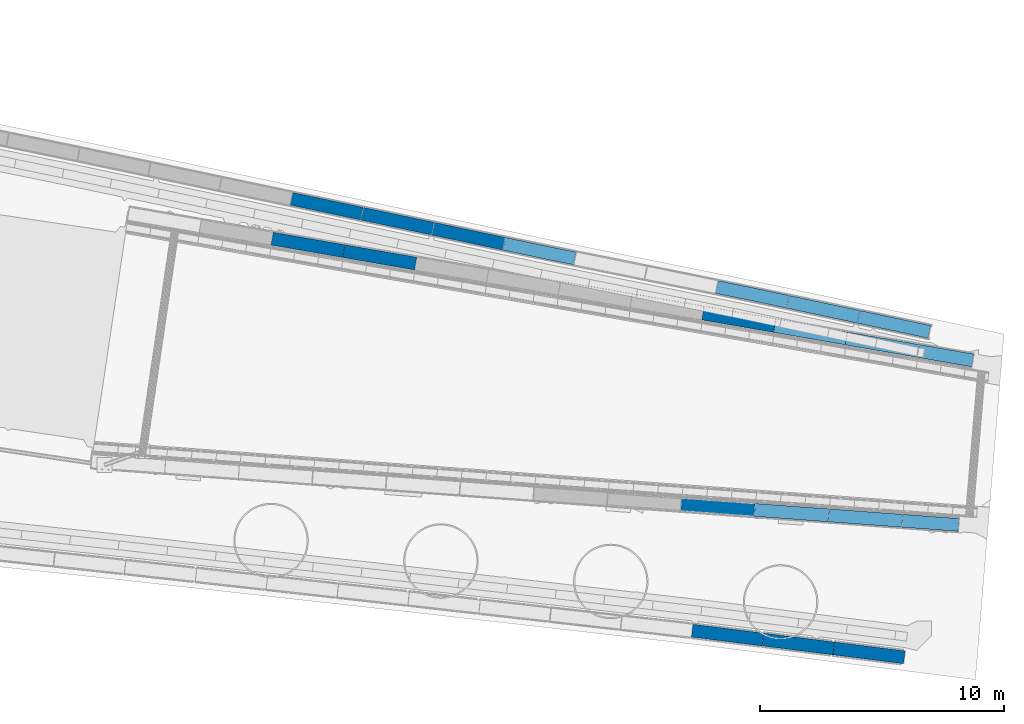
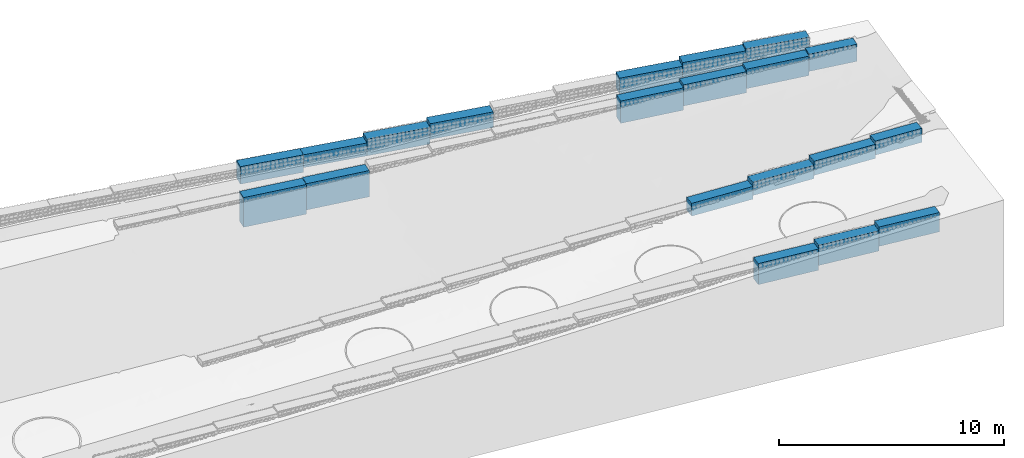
# Not in any storey, part 6 of 46: 20 walls.
"""IFC4 model written with IfcOpenShell, lengths in metres."""

from ifc_helpers import new_model, si_unit, direction, frame, origin_with_axes, place, context, subcontext, project, spatial, polyline, outline, extrude, material, element, save


model = new_model("IFC4")

# Units and contexts
model_context = context("Model", 3, precision=1e-05, world=origin_with_axes(), true_north=direction((0.0, 1.0)))
body_context = subcontext(model_context, "Body", "Model", "MODEL_VIEW")
ifc_project = project(units=[si_unit("VOLUMEUNIT", "CUBIC_METRE"), si_unit("LENGTHUNIT", "METRE"), si_unit("AREAUNIT", "SQUARE_METRE")], contexts=[model_context])

# Site
site_placement = place(None, origin_with_axes())
site = spatial("IfcSite", under=ifc_project, at=site_placement, Name="Lares · Rua das Mercês · artigo 4771")

# Walls
ifc_material = material(Name="Gabião · enchimento", Category="stone")
wall_1_placement = place(site_placement, frame((0.0, 0.0, 15.004702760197), z_axis=(0.0, 0.0, 1.0), x_axis=(1.0, -1.03767253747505e-17, 0.0)))
element("IfcWall", 1, at=wall_1_placement, inside=site, material=ifc_material, Name="Acesso · gabião -1 24.0 · núcleo de pedra", ObjectType="Acesso · gabião -1 24.0 · núcleo de pedra", PredefinedType="USERDEFINED", context=body_context, shape_type="SweptSolid", body=[
    extrude(outline(polyline([(73.6851954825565, 0.657922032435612), (73.6463044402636, 0.129350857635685), (70.628225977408, 0.351414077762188), (70.6671170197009, 0.879985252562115), (73.6851954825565, 0.657922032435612)])), origin_with_axes(), (0.0, 0.0, 1.0), 0.693374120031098),
])
wall_2_placement = place(site_placement, frame((0.0, 0.0, 15.2015590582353), z_axis=(0.0, 0.0, 1.0), x_axis=(1.0, -1.03767253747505e-17, 0.0)))
element("IfcWall", 2, at=wall_2_placement, inside=site, material=ifc_material, Name="Acesso · gabião -1 27.0 · núcleo de pedra", ObjectType="Acesso · gabião -1 27.0 · núcleo de pedra", PredefinedType="USERDEFINED", context=body_context, shape_type="SweptSolid", body=[
    extrude(outline(polyline([(76.7038165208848, 0.435836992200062), (76.6649286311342, -0.0927344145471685), (73.6463060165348, 0.129350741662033), (73.6851939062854, 0.657922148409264), (76.7038165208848, 0.435836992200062)])), origin_with_axes(), (0.0, 0.0, 1.0), 0.719891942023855),
])
wall_3_placement = place(site_placement, frame((0.0, 0.0, 15.3761019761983), z_axis=(0.0, 0.0, 1.0), x_axis=(1.0, -1.03767253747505e-17, 0.0)))
element("IfcWall", 3, at=wall_3_placement, inside=site, material=ifc_material, Name="Acesso · gabião -1 30.0 · núcleo de pedra", ObjectType="Acesso · gabião -1 30.0 · núcleo de pedra", PredefinedType="USERDEFINED", context=body_context, shape_type="SweptSolid", body=[
    extrude(outline(polyline([(79.7230708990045, 0.213733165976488), (79.684187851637, -0.314838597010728), (76.6649310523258, -0.0927345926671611), (76.7038140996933, 0.435837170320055), (79.7230708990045, 0.213733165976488)])), origin_with_axes(), (0.0, 0.0, 1.0), 0.768723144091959),
])
wall_4_placement = place(site_placement, frame((0.0, 0.0, 15.5502454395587), z_axis=(0.0, 0.0, 1.0), x_axis=(1.0, -1.03767253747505e-17, 0.0)))
element("IfcWall", 4, at=wall_4_placement, inside=site, material=ifc_material, Name="Acesso · gabião -1 33.0 · núcleo de pedra", ObjectType="Acesso · gabião -1 33.0 · núcleo de pedra", PredefinedType="USERDEFINED", context=body_context, shape_type="SweptSolid", body=[
    extrude(outline(polyline([(82.025962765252, 0.04435366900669), (81.9870858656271, -0.484218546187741), (79.6841909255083, -0.314838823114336), (79.7230678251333, 0.213733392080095), (82.025962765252, 0.04435366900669)])), origin_with_axes(), (0.0, 0.0, 1.0), 0.764918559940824),
])
wall_5_placement = place(site_placement, frame((0.0, 0.0, 13.6644580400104), z_axis=(0.0, 0.0, 1.0), x_axis=(1.0, -1.03767253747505e-17, 0.0)))
element("IfcWall", 5, at=wall_5_placement, inside=site, material=ifc_material, Name="Acesso · gabião 1 6.0 · núcleo de pedra", ObjectType="Acesso · gabião 1 6.0 · núcleo de pedra", PredefinedType="USERDEFINED", context=body_context, shape_type="SweptSolid", body=[
    extrude(outline(polyline([(56.892786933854, 11.2479066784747), (56.8020581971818, 10.7257301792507), (53.8629507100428, 11.2364033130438), (53.953679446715, 11.7585798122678), (56.892786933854, 11.2479066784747)])), origin_with_axes(), (0.0, 0.0, 1.0), 1.61394453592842),
])
wall_6_placement = place(site_placement, frame((0.0, 0.0, 13.8878321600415), z_axis=(0.0, 0.0, 1.0), x_axis=(1.0, -1.03767253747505e-17, 0.0)))
element("IfcWall", 6, at=wall_6_placement, inside=site, material=ifc_material, Name="Acesso · gabião 1 9.0 · núcleo de pedra", ObjectType="Acesso · gabião 1 9.0 · núcleo de pedra", PredefinedType="USERDEFINED", context=body_context, shape_type="SweptSolid", body=[
    extrude(outline(polyline([(59.8316485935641, 10.7372547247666), (59.7409161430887, 10.2150788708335), (56.8020563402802, 10.7257305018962), (56.8927887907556, 11.2479063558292), (59.8316485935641, 10.7372547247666)])), origin_with_axes(), (0.0, 0.0, 1.0), 1.42680552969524),
])
wall_7_placement = place(site_placement, frame((0.0, 0.0, 15.004702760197), z_axis=(0.0, 0.0, 1.0), x_axis=(1.0, -1.03767253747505e-17, 0.0)))
element("IfcWall", 7, at=wall_7_placement, inside=site, material=ifc_material, Name="Acesso · gabião 1 24.0 · núcleo de pedra", ObjectType="Acesso · gabião 1 24.0 · núcleo de pedra", PredefinedType="USERDEFINED", context=body_context, shape_type="SweptSolid", body=[
    extrude(outline(polyline([(74.5209485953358, 8.18434192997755), (74.4301814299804, 7.66217210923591), (71.4931528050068, 8.17270671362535), (71.5839199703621, 8.69487653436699), (74.5209485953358, 8.18434192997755)])), origin_with_axes(), (0.0, 0.0, 1.0), 1.20876084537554),
])
wall_8_placement = place(site_placement, frame((0.0, 0.0, 15.2280768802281), z_axis=(0.0, 0.0, 1.0), x_axis=(1.0, -1.03767253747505e-17, 0.0)))
element("IfcWall", 8, at=wall_8_placement, inside=site, material=ifc_material, Name="Acesso · gabião 1 27.0 · núcleo de pedra", ObjectType="Acesso · gabião 1 27.0 · núcleo de pedra", PredefinedType="USERDEFINED", context=body_context, shape_type="SweptSolid", body=[
    extrude(outline(polyline([(77.4574393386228, 7.67382817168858), (77.366659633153, 7.1516605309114), (74.4301751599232, 7.66217319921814), (74.520954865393, 8.18434083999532), (77.4574393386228, 7.67382817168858)])), origin_with_axes(), (0.0, 0.0, 1.0), 1.14763134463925),
])
wall_9_placement = place(site_placement, frame((0.0, 0.0, 15.4514510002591), z_axis=(0.0, 0.0, 1.0), x_axis=(1.0, -1.03767253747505e-17, 0.0)))
element("IfcWall", 9, at=wall_9_placement, inside=site, material=ifc_material, Name="Acesso · gabião 1 30.0 · núcleo de pedra", ObjectType="Acesso · gabião 1 30.0 · núcleo de pedra", PredefinedType="USERDEFINED", context=body_context, shape_type="SweptSolid", body=[
    extrude(outline(polyline([(80.3932975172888, 7.16333297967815), (80.3025020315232, 6.64116808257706), (77.3666517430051, 7.15166190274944), (77.4574472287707, 7.67382679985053), (80.3932975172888, 7.16333297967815)])), origin_with_axes(), (0.0, 0.0, 1.0), 1.05565777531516),
])
wall_10_placement = place(site_placement, frame((0.0, 0.0, 15.6748251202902), z_axis=(0.0, 0.0, 1.0), x_axis=(1.0, -1.03767253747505e-17, 0.0)))
element("IfcWall", 10, at=wall_10_placement, inside=site, material=ifc_material, Name="Acesso · gabião 1 33.0 · núcleo de pedra", ObjectType="Acesso · gabião 1 33.0 · núcleo de pedra", PredefinedType="USERDEFINED", context=body_context, shape_type="SweptSolid", body=[
    extrude(outline(polyline([(82.6316099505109, 6.77405251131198), (82.5407971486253, 6.25189062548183), (80.3024933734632, 6.64116958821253), (80.3933061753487, 7.16333147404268), (82.6316099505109, 6.77405251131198)])), origin_with_axes(), (0.0, 0.0, 1.0), 0.931312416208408),
])
wall_11_placement = place(site_placement, frame((0.0, 0.0, 14.75), z_axis=(0.0, 0.0, 1.0), x_axis=(1.0, -1.03767253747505e-17, 0.0)))
element("IfcWall", 11, at=wall_11_placement, inside=site, material=ifc_material, Name="Limite north · gabião 19 · núcleo de pedra", ObjectType="Limite north · gabião 19 · núcleo de pedra", PredefinedType="USERDEFINED", context=body_context, shape_type="SweptSolid", body=[
    extrude(outline(polyline([(56.4691492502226, 13.027263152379), (56.4695476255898, 13.0271792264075), (57.6501177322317, 12.7775205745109), (57.5404621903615, 12.2589883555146), (56.3600912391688, 12.5086048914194), (54.6393722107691, 12.8697295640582), (54.7482310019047, 13.3884296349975), (56.4691492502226, 13.027263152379)])), origin_with_axes(), (0.0, 0.0, 1.0), 0.950000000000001),
])
wall_12_placement = place(site_placement, frame((0.0, 0.0, 15.0), z_axis=(0.0, 0.0, 1.0), x_axis=(1.0, -1.03767253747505e-17, 0.0)))
element("IfcWall", 12, at=wall_12_placement, inside=site, material=ifc_material, Name="Limite north · gabião 20 · núcleo de pedra", ObjectType="Limite north · gabião 20 · núcleo de pedra", PredefinedType="USERDEFINED", context=body_context, shape_type="SweptSolid", body=[
    extrude(outline(polyline([(60.551049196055, 12.1640520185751), (60.4413936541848, 11.6455197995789), (57.5404621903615, 12.2589883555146), (57.6501177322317, 12.7775205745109), (60.551049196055, 12.1640520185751)])), origin_with_axes(), (0.0, 0.0, 1.0), 0.700000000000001),
])
wall_13_placement = place(site_placement, frame((0.0, 0.0, 15.0), z_axis=(0.0, 0.0, 1.0), x_axis=(1.0, -1.03767253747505e-17, 0.0)))
element("IfcWall", 13, at=wall_13_placement, inside=site, material=ifc_material, Name="Limite north · gabião 21 · núcleo de pedra", ObjectType="Limite north · gabião 21 · núcleo de pedra", PredefinedType="USERDEFINED", context=body_context, shape_type="SweptSolid", body=[
    extrude(outline(polyline([(63.4519806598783, 11.5505834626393), (63.3423251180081, 11.0320512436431), (60.4413936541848, 11.6455197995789), (60.551049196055, 12.1640520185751), (63.4519806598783, 11.5505834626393)])), origin_with_axes(), (0.0, 0.0, 1.0), 0.9),
])
wall_14_placement = place(site_placement, frame((0.0, 0.0, 15.25), z_axis=(0.0, 0.0, 1.0), x_axis=(1.0, -1.03767253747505e-17, 0.0)))
element("IfcWall", 14, at=wall_14_placement, inside=site, material=ifc_material, Name="Limite north · gabião 22 · núcleo de pedra", ObjectType="Limite north · gabião 22 · núcleo de pedra", PredefinedType="USERDEFINED", context=body_context, shape_type="SweptSolid", body=[
    extrude(outline(polyline([(65.1604418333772, 11.1892901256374), (66.3527884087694, 10.9488009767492), (66.2480007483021, 10.4292631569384), (65.0544360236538, 10.6699979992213), (65.0520020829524, 10.6705007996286), (63.3423251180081, 11.0320512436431), (63.4519806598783, 11.5505834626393), (65.1604418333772, 11.1892901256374)])), origin_with_axes(), (0.0, 0.0, 1.0), 0.850000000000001),
])
wall_15_placement = place(site_placement, frame((0.0, 0.0, 15.75), z_axis=(0.0, 0.0, 1.0), x_axis=(1.0, -1.03767253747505e-17, 0.0)))
element("IfcWall", 15, at=wall_15_placement, inside=site, material=ifc_material, Name="Limite north · gabião 25 · núcleo de pedra", ObjectType="Limite north · gabião 25 · núcleo de pedra", PredefinedType="USERDEFINED", context=body_context, shape_type="SweptSolid", body=[
    extrude(outline(polyline([(73.4824731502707, 9.5107863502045), (73.4851480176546, 9.51023248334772), (75.0717450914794, 9.17316935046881), (74.9616076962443, 8.65473926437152), (73.3763466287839, 8.99151857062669), (72.0611153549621, 9.25679282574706), (72.1659030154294, 9.77633064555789), (73.4824731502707, 9.5107863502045)])), origin_with_axes(), (0.0, 0.0, 1.0), 0.850000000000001),
])
wall_16_placement = place(site_placement, frame((0.0, 0.0, 15.75), z_axis=(0.0, 0.0, 1.0), x_axis=(1.0, -1.03767253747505e-17, 0.0)))
element("IfcWall", 16, at=wall_16_placement, inside=site, material=ifc_material, Name="Limite north · gabião 26 · núcleo de pedra", ObjectType="Limite north · gabião 26 · núcleo de pedra", PredefinedType="USERDEFINED", context=body_context, shape_type="SweptSolid", body=[
    extrude(outline(polyline([(77.9721051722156, 8.55700506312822), (77.8619677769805, 8.03857497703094), (74.9616076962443, 8.65473926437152), (75.0717450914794, 9.17316935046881), (77.9721051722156, 8.55700506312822)])), origin_with_axes(), (0.0, 0.0, 1.0), 1.05),
])
wall_17_placement = place(site_placement, frame((0.0, 0.0, 16.0), z_axis=(0.0, 0.0, 1.0), x_axis=(1.0, -1.03767253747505e-17, 0.0)))
element("IfcWall", 17, at=wall_17_placement, inside=site, material=ifc_material, Name="Limite north · gabião 27 · núcleo de pedra", ObjectType="Limite north · gabião 27 · núcleo de pedra", PredefinedType="USERDEFINED", context=body_context, shape_type="SweptSolid", body=[
    extrude(outline(polyline([(80.8724652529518, 7.94084077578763), (80.7623278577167, 7.42241068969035), (77.8619677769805, 8.03857497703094), (77.9721051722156, 8.55700506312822), (80.8724652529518, 7.94084077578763)])), origin_with_axes(), (0.0, 0.0, 1.0), 0.900000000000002),
])
wall_18_placement = place(site_placement, frame((0.0, 0.0, 14.25), z_axis=(0.0, 0.0, 1.0), x_axis=(1.0, -1.03767253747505e-17, 0.0)))
element("IfcWall", 18, at=wall_18_placement, inside=site, material=ifc_material, Name="Limite south · gabião 29 · núcleo de pedra", ObjectType="Limite south · gabião 29 · núcleo de pedra", PredefinedType="USERDEFINED", context=body_context, shape_type="SweptSolid", body=[
    extrude(outline(polyline([(71.3785279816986, -4.31408767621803), (71.3816626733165, -4.31446301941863), (74.0316917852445, -4.64779709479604), (73.9655469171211, -5.17365340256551), (71.3170840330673, -4.84051633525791), (71.07184157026, -4.81263214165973), (71.1317170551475, -4.28602514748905), (71.3785279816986, -4.31408767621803)])), origin_with_axes(), (0.0, 0.0, 1.0), 1.15),
])
wall_19_placement = place(site_placement, frame((0.0, 0.0, 14.5), z_axis=(0.0, 0.0, 1.0), x_axis=(1.0, -1.03767253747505e-17, 0.0)))
element("IfcWall", 19, at=wall_19_placement, inside=site, material=ifc_material, Name="Limite south · gabião 30 · núcleo de pedra", ObjectType="Limite south · gabião 30 · núcleo de pedra", PredefinedType="USERDEFINED", context=body_context, shape_type="SweptSolid", body=[
    extrude(outline(polyline([(76.9281799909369, -5.01213204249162), (76.8620351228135, -5.53798835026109), (73.9655469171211, -5.17365340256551), (74.0316917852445, -4.64779709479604), (76.9281799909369, -5.01213204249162)])), origin_with_axes(), (0.0, 0.0, 1.0), 1.1),
])
wall_20_placement = place(site_placement, frame((0.0, 0.0, 14.75), z_axis=(0.0, 0.0, 1.0), x_axis=(1.0, -1.03767253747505e-17, 0.0)))
element("IfcWall", 20, at=wall_20_placement, inside=site, material=ifc_material, Name="Limite south · gabião 31 · núcleo de pedra", ObjectType="Limite south · gabião 31 · núcleo de pedra", PredefinedType="USERDEFINED", context=body_context, shape_type="SweptSolid", body=[
    extrude(outline(polyline([(79.8246681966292, -5.3764669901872), (79.7585233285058, -5.90232329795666), (76.8620351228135, -5.53798835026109), (76.9281799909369, -5.01213204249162), (79.8246681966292, -5.3764669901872)])), origin_with_axes(), (0.0, 0.0, 1.0), 1.05),
])

save(model, "model.ifc")
